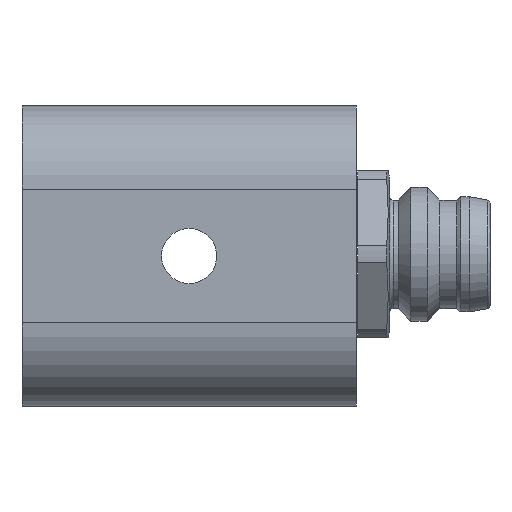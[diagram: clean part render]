
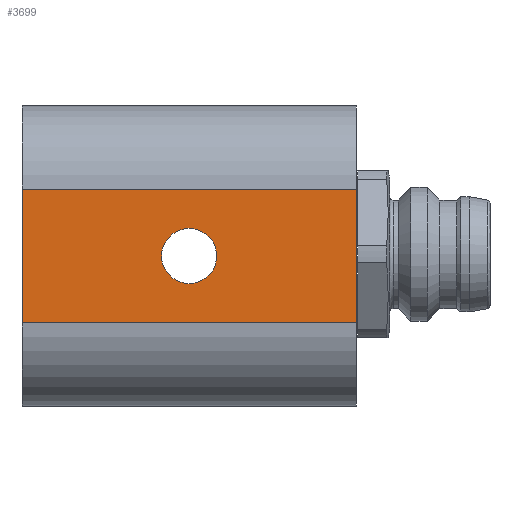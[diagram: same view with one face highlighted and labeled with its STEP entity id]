
A CAD part, left-side view. The second image highlights one B-rep face of the part: STEP entity #3699.
In plain terms, the highlighted planar face has unit normal (-1, 0, 0).
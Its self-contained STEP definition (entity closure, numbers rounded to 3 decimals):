
#30 = PLANE ( 'NONE',  #3033 ) ;
#203 = EDGE_CURVE ( 'NONE', #3162, #1118, #1098, .T. ) ;
#352 = DIRECTION ( 'NONE',  ( 0., 0., -1. ) ) ;
#375 = DIRECTION ( 'NONE',  ( 0., 0., -1. ) ) ;
#459 = DIRECTION ( 'NONE',  ( 0., 0., 1. ) ) ;
#519 = ORIENTED_EDGE ( 'NONE', *, *, #859, .F. ) ;
#567 = VECTOR ( 'NONE', #352, 1000. ) ;
#758 = VERTEX_POINT ( 'NONE', #2368 ) ;
#776 = VECTOR ( 'NONE', #459, 1000. ) ;
#859 = EDGE_CURVE ( 'NONE', #4321, #1114, #936, .T. ) ;
#894 = CARTESIAN_POINT ( 'NONE',  ( -87.5, -10., 0. ) ) ;
#936 = LINE ( 'NONE', #3698, #776 ) ;
#969 = CARTESIAN_POINT ( 'NONE',  ( -87.5, -20., -4. ) ) ;
#1008 = EDGE_CURVE ( 'NONE', #4321, #1118, #3463, .T. ) ;
#1031 = EDGE_CURVE ( 'NONE', #758, #758, #1916, .T. ) ;
#1098 = LINE ( 'NONE', #3967, #567 ) ;
#1114 = VERTEX_POINT ( 'NONE', #3650 ) ;
#1118 = VERTEX_POINT ( 'NONE', #969 ) ;
#1442 = CARTESIAN_POINT ( 'NONE',  ( -87.5, 0., 4. ) ) ;
#1552 = CARTESIAN_POINT ( 'NONE',  ( -87.5, 0., -4. ) ) ;
#1645 = FACE_OUTER_BOUND ( 'NONE', #3689, .T. ) ;
#1862 = AXIS2_PLACEMENT_3D ( 'NONE', #894, #3895, #1880 ) ;
#1880 = DIRECTION ( 'NONE',  ( 0., 0., 1. ) ) ;
#1916 = CIRCLE ( 'NONE', #1862, 1.65 ) ;
#2149 = ORIENTED_EDGE ( 'NONE', *, *, #1008, .T. ) ;
#2240 = ORIENTED_EDGE ( 'NONE', *, *, #1031, .F. ) ;
#2316 = CARTESIAN_POINT ( 'NONE',  ( -87.5, -20., 4. ) ) ;
#2329 = DIRECTION ( 'NONE',  ( 1., 0., 0. ) ) ;
#2368 = CARTESIAN_POINT ( 'NONE',  ( -87.5, -10., 1.65 ) ) ;
#2491 = DIRECTION ( 'NONE',  ( 0., 1., 0. ) ) ;
#2574 = DIRECTION ( 'NONE',  ( 0., -1., 0. ) ) ;
#2637 = EDGE_CURVE ( 'NONE', #3162, #1114, #3904, .T. ) ;
#3033 = AXIS2_PLACEMENT_3D ( 'NONE', #4048, #2329, #375 ) ;
#3065 = EDGE_LOOP ( 'NONE', ( #2240 ) ) ;
#3162 = VERTEX_POINT ( 'NONE', #2316 ) ;
#3286 = CARTESIAN_POINT ( 'NONE',  ( -87.5, 0., -4. ) ) ;
#3401 = FACE_BOUND ( 'NONE', #3065, .T. ) ;
#3463 = LINE ( 'NONE', #1552, #3509 ) ;
#3509 = VECTOR ( 'NONE', #2574, 1000. ) ;
#3650 = CARTESIAN_POINT ( 'NONE',  ( -87.5, 0., 4. ) ) ;
#3689 = EDGE_LOOP ( 'NONE', ( #519, #2149, #3918, #4212 ) ) ;
#3694 = VECTOR ( 'NONE', #2491, 1000. ) ;
#3698 = CARTESIAN_POINT ( 'NONE',  ( -87.5, 0., 9. ) ) ;
#3699 = ADVANCED_FACE ( 'NONE', ( #3401, #1645 ), #30, .F. ) ;
#3895 = DIRECTION ( 'NONE',  ( -1., 0., 0. ) ) ;
#3904 = LINE ( 'NONE', #1442, #3694 ) ;
#3918 = ORIENTED_EDGE ( 'NONE', *, *, #203, .F. ) ;
#3967 = CARTESIAN_POINT ( 'NONE',  ( -87.5, -20., -4. ) ) ;
#4048 = CARTESIAN_POINT ( 'NONE',  ( -87.5, 0., 9. ) ) ;
#4212 = ORIENTED_EDGE ( 'NONE', *, *, #2637, .T. ) ;
#4321 = VERTEX_POINT ( 'NONE', #3286 ) ;
